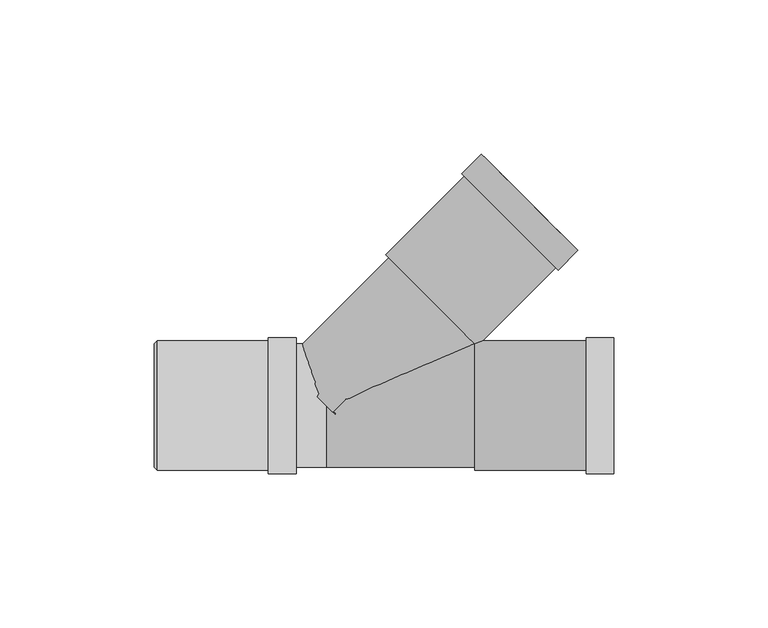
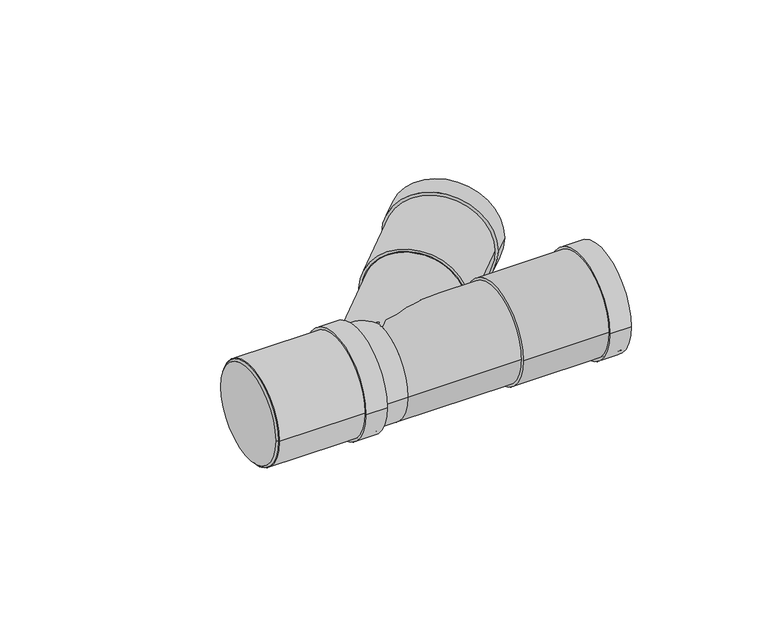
"""IFC4 building model written with IfcOpenShell, lengths in millimetres: pipe fitting geometry, Superdrain HTEA Branch : Superdrain HTEA Branch."""

from ifc_helpers import new_model, si_unit, point, frame, origin, origin_2d, place, context, project, spatial, polyline, circle_curve, trimmed, segment, composite_curve, outline, extrude, source, transform, mapped, element, save
from ifc_brep_helpers import plane_surface, cylinder_surface, revolved_surface, advanced_brep


def pipe_fitting_83815e7b(model_context):
    return source(origin(), model_context, "Body", "SolidModel", [
        extrude(outline(composite_curve([segment(trimmed(circle_curve(origin_2d(), 21.0), [point((21.0, 0.0))], [point((-21.0, 0.0))], False, "CARTESIAN"), True, "CONTINUOUS"), segment(trimmed(circle_curve(origin_2d(), 21.0), [point((-21.0, 0.0))], [point((21.0, 0.0))], False, "CARTESIAN"), True, "CONTINUOUS")], self_intersect=False), holes=[composite_curve([segment(trimmed(circle_curve(origin_2d(), 20.0), [point((20.0, 0.0))], [point((-20.0, 0.0))], True, "CARTESIAN"), True, "CONTINUOUS"), segment(trimmed(circle_curve(origin_2d(), 20.0), [point((-20.0, 0.0))], [point((20.0, 0.0))], True, "CARTESIAN"), True, "CONTINUOUS")], self_intersect=False)]), frame((-54.8, 0.0, 0.0), z_axis=(1.0, 0.0, 0.0), x_axis=(0.0, 1.0, 0.0)), (0.0, 0.0, 1.0), 45.0),
        extrude(outline(composite_curve([segment(trimmed(circle_curve(origin_2d(), 22.05), [point((22.05, 0.0))], [point((-22.05, 0.0))], False, "CARTESIAN"), True, "CONTINUOUS"), segment(trimmed(circle_curve(origin_2d(), 22.05), [point((-22.05, 0.0))], [point((22.05, 0.0))], False, "CARTESIAN"), True, "CONTINUOUS")], self_intersect=False), holes=[composite_curve([segment(trimmed(circle_curve(origin_2d(), 20.0), [point((20.0, 0.0))], [point((-20.0, 0.0))], True, "CARTESIAN"), True, "CONTINUOUS"), segment(trimmed(circle_curve(origin_2d(), 20.0), [point((-20.0, 0.0))], [point((20.0, 0.0))], True, "CARTESIAN"), True, "CONTINUOUS")], self_intersect=False)]), frame((-18.8, 0.0, 0.0), z_axis=(1.0, 0.0, 0.0), x_axis=(0.0, 1.0, 0.0)), (0.0, 0.0, 1.0), 9.0),
        advanced_brep(
        [(-55.8, 20.0, 0.0), (-55.8, -20.0, 0.0), (-54.8, 21.0, 0.0), (-54.8, -21.0, 0.0)],
        [
            (0, 1, circle_curve(frame((-55.8, 0.0, 0.0), z_axis=(-1.0, 0.0, 0.0), x_axis=(0.0, 1.0000000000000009, 0.0)), 20.0)),
            (1, 0, circle_curve(frame((-55.8, 0.0, 0.0), z_axis=(-1.0, 0.0, 0.0), x_axis=(0.0, -1.0000000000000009, 0.0)), 20.0)),
            (2, 3, circle_curve(frame((-54.8, 0.0, 0.0), z_axis=(1.0, 0.0, 0.0), x_axis=(0.0, -1.0000000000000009, 0.0)), 21.0)),
            (3, 2, circle_curve(frame((-54.8, 0.0, 0.0), z_axis=(1.0, 0.0, 0.0), x_axis=(0.0, 1.0000000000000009, 0.0)), 21.0)),
            (3, 1),
            (0, 2),
        ],
        [
            plane_surface(frame((-55.8, 0.0, 0.0), z_axis=(-1.0, 0.0, 0.0), x_axis=(0.0, 0.0, -1.0))),
            plane_surface(frame((-54.8, 0.0, 0.0), z_axis=(1.0, 0.0, 0.0), x_axis=(0.0, 0.0, -1.0))),
            revolved_surface(polyline([(-55.8, 19.999999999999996, 0.0), (-54.8, 21.0, 0.0)]), (-75.8, 0.0, 0.0), (1.0000000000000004, 0.0, 0.0)),
            revolved_surface(polyline([(-55.8, -19.999999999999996, 0.0), (-54.8, -21.0, 0.0)]), (-75.8, 0.0, 0.0), (1.0000000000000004, 0.0, 0.0)),
        ],
        [
            (0, [[1, 2]]),
            (1, [[3, 4]]),
            (2, [[-4, 5, -1, 6]]),
            (3, [[-3, -6, -2, -5]]),
        ],
    ),
        advanced_brep(
        [(48.2, -21.0, 0.0), (48.2, 21.0, 0.0), (93.2, -21.0, 0.0), (93.2, 21.0, 0.0), (93.2, -20.0, 0.0), (93.2, 20.0, 0.0), (49.2, -20.0, 0.0), (49.2, 20.0, 0.0)],
        [
            (0, 1, circle_curve(frame((48.2, 0.0, 0.0), z_axis=(-1.0, 0.0, 0.0), x_axis=(0.0, 1.0, 0.0)), 21.0)),
            (1, 0, circle_curve(frame((48.2, 0.0, 0.0), z_axis=(-1.0, 0.0, 0.0), x_axis=(0.0, 1.0, 0.0)), 21.0)),
            (2, 3, circle_curve(frame((93.2, 0.0, 0.0), z_axis=(1.0, 0.0, 0.0), x_axis=(0.0, 1.0, 0.0)), 21.0)),
            (3, 2, circle_curve(frame((93.2, 0.0, 0.0), z_axis=(1.0, 0.0, 0.0), x_axis=(0.0, 1.0, 0.0)), 21.0)),
            (4, 5, circle_curve(frame((93.2, 0.0, 0.0), z_axis=(-1.0, 0.0, 0.0), x_axis=(0.0, 1.0, 0.0)), 20.0)),
            (5, 4, circle_curve(frame((93.2, 0.0, 0.0), z_axis=(-1.0, 0.0, 0.0), x_axis=(0.0, 1.0, 0.0)), 20.0)),
            (0, 2),
            (3, 1),
            (6, 7, circle_curve(frame((49.2, 0.0, 0.0), z_axis=(-1.0, 0.0, 0.0), x_axis=(0.0, 1.0, 0.0)), 20.0)),
            (7, 5),
            (4, 6),
            (7, 6, circle_curve(frame((49.2, 0.0, 0.0), z_axis=(-1.0, 0.0, 0.0), x_axis=(0.0, 1.0, 0.0)), 20.0)),
        ],
        [
            plane_surface(frame((48.2, 0.0, 0.0), z_axis=(-1.0, 0.0, 0.0), x_axis=(0.0, 0.0, 1.0))),
            plane_surface(frame((93.2, 0.0, 0.0), z_axis=(1.0, 0.0, 0.0), x_axis=(0.0, 0.0, 1.0))),
            cylinder_surface(frame((48.2, 0.0, 0.0), z_axis=(-1.0, 0.0, 0.0), x_axis=(0.0, 1.0, 0.0)), 21.0),
            revolved_surface(polyline([(49.2, 20.0, 0.0), (93.2, 20.0, 0.0)]), (49.2, 0.0, 0.0), (-1.0, 0.0, 0.0)),
            plane_surface(frame((49.2, 0.0, 0.0), z_axis=(1.0, 0.0, 0.0), x_axis=(0.0, 0.0, 1.0))),
        ],
        [
            (0, [[1, 2]]),
            (1, [[3, 4], [5, 6]]),
            (2, [[-1, 7, -4, 8]]),
            (2, [[-2, -8, -3, -7]]),
            (3, [[9, 10, -5, 11]]),
            (3, [[12, -11, -6, -10]]),
            (4, [[-12, -9]]),
        ],
    ),
        extrude(outline(composite_curve([segment(trimmed(circle_curve(origin_2d(), 22.05), [point((22.05, 0.0))], [point((-22.05, 0.0))], False, "CARTESIAN"), True, "CONTINUOUS"), segment(trimmed(circle_curve(origin_2d(), 22.05), [point((-22.05, 0.0))], [point((22.05, 0.0))], False, "CARTESIAN"), True, "CONTINUOUS")], self_intersect=False), holes=[composite_curve([segment(trimmed(circle_curve(origin_2d(), 20.0), [point((20.0, 0.0))], [point((-20.0, 0.0))], True, "CARTESIAN"), True, "CONTINUOUS"), segment(trimmed(circle_curve(origin_2d(), 20.0), [point((-20.0, 0.0))], [point((20.0, 0.0))], True, "CARTESIAN"), True, "CONTINUOUS")], self_intersect=False)]), frame((84.2, 0.0, 0.0), z_axis=(1.0, 0.0, 0.0), x_axis=(0.0, 1.0, 0.0)), (0.0, 0.0, 1.0), 9.0),
        extrude(outline(composite_curve([segment(trimmed(circle_curve(origin_2d(), 19.6), [point((0.0, 19.6))], [point((0.0, -19.6))], False, "CARTESIAN"), True, "CONTINUOUS"), segment(trimmed(circle_curve(origin_2d(), 19.6), [point((0.0, -19.6))], [point((0.0, 19.6))], False, "CARTESIAN"), True, "CONTINUOUS")], self_intersect=False)), frame((0.0, 0.0, 0.0), z_axis=(0.7071067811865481, 0.707106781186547, 0.0), x_axis=(0.0, 0.0, 1.0)), (0.0, 0.0, 1.0), 48.2),
        extrude(outline(composite_curve([segment(trimmed(circle_curve(origin_2d(), 20.0), [point((20.0, 0.0))], [point((-20.0, 0.0))], False, "CARTESIAN"), True, "CONTINUOUS"), segment(trimmed(circle_curve(origin_2d(), 20.0), [point((-20.0, 0.0))], [point((20.0, 0.0))], False, "CARTESIAN"), True, "CONTINUOUS")], self_intersect=False)), frame((-54.8, 0.0, 0.0), z_axis=(1.0, 0.0, 0.0), x_axis=(0.0, 1.0, 0.0)), (0.0, 0.0, 1.0), 54.8),
        extrude(outline(composite_curve([segment(trimmed(circle_curve(origin_2d(), 20.0), [point((-20.0, 0.0))], [point((20.0, 0.0))], False, "CARTESIAN"), True, "CONTINUOUS"), segment(trimmed(circle_curve(origin_2d(), 20.0), [point((20.0, 0.0))], [point((-20.0, 0.0))], False, "CARTESIAN"), True, "CONTINUOUS")], self_intersect=False)), frame((0.0, 0.0, 0.0), z_axis=(1.0, 0.0, 0.0), x_axis=(0.0, 1.0, 0.0)), (0.0, 0.0, 1.0), 48.2),
        extrude(outline(composite_curve([segment(trimmed(circle_curve(origin_2d(), 22.05), [point((0.0, 22.05))], [point((0.0, -22.05))], False, "CARTESIAN"), True, "CONTINUOUS"), segment(trimmed(circle_curve(origin_2d(), 22.05), [point((0.0, -22.05))], [point((0.0, 22.05))], False, "CARTESIAN"), True, "CONTINUOUS")], self_intersect=False), holes=[composite_curve([segment(trimmed(circle_curve(origin_2d(), 20.0), [point((0.0, 20.0))], [point((0.0, -20.0))], True, "CARTESIAN"), True, "CONTINUOUS"), segment(trimmed(circle_curve(origin_2d(), 20.0), [point((0.0, -20.0))], [point((0.0, 20.0))], True, "CARTESIAN"), True, "CONTINUOUS")], self_intersect=False)]), frame((59.538391, 59.538391, 0.0), z_axis=(0.7071067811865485, 0.7071067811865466, 0.0), x_axis=(0.0, 0.0, 1.0)), (0.0, 0.0, 1.0), 9.0),
        extrude(outline(composite_curve([segment(trimmed(circle_curve(origin_2d(), 21.0), [point((0.0, 21.0000001))], [point((0.0, -21.0000001))], False, "CARTESIAN"), True, "CONTINUOUS"), segment(trimmed(circle_curve(origin_2d(), 21.0), [point((0.0, -21.0000001))], [point((0.0, 21.0000001))], False, "CARTESIAN"), True, "CONTINUOUS")], self_intersect=False), holes=[composite_curve([segment(trimmed(circle_curve(origin_2d(), 20.0), [point((0.0, 20.0))], [point((0.0, -20.0))], True, "CARTESIAN"), True, "CONTINUOUS"), segment(trimmed(circle_curve(origin_2d(), 20.0), [point((0.0, -20.0))], [point((0.0, 20.0))], True, "CARTESIAN"), True, "CONTINUOUS")], self_intersect=False)]), frame((34.0825469, 34.0825469, 0.0), z_axis=(0.7071067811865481, 0.707106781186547, 0.0), x_axis=(0.0, 0.0, 1.0)), (0.0, 0.0, 1.0), 45.0),
    ])


if __name__ == "__main__":
    model = new_model("IFC4")
    model_context = context("Model", 3, world=origin())
    ifc_project = project(units=[si_unit("LENGTHUNIT", "METRE", prefix="MILLI")], contexts=[model_context])
    site = spatial("IfcSite", under=ifc_project)
    building = spatial("IfcBuilding", under=site)
    placement = place(None, origin())
    pipe_fitting_shape = pipe_fitting_83815e7b(model_context)
    element("IfcPipeFitting", 1, ObjectType="Superdrain HTEA Branch : Superdrain HTEA Branch", at=placement, inside=building, context=model_context, shape_type="MappedRepresentation", body=[
        mapped(pipe_fitting_shape, transform((0.0, 0.0, 0.0), x_axis=(1.0, 0.0, 0.0), y_axis=(0.0, 1.0, 0.0), z_axis=(0.0, 0.0, 1.0))),
    ])
    save(model, "model.ifc")
